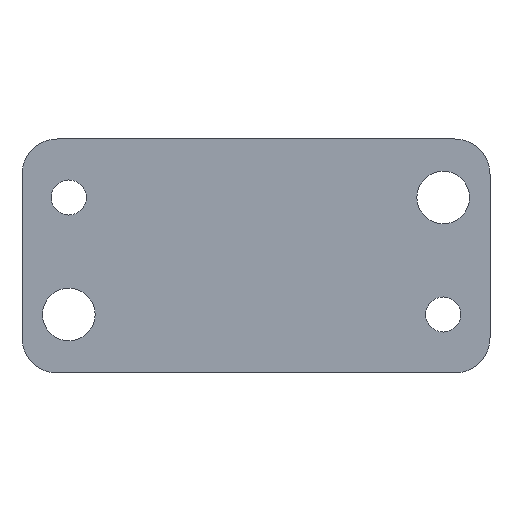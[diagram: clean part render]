
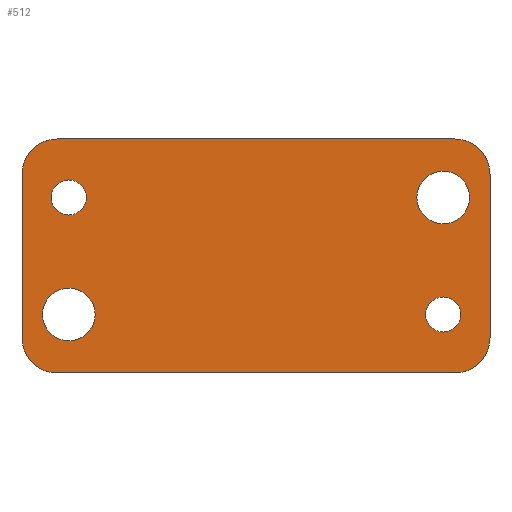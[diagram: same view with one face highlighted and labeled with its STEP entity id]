
A CAD part, front view. The second image highlights one B-rep face of the part: STEP entity #512.
In plain terms, the highlighted planar face has unit normal (0, -1, 0).
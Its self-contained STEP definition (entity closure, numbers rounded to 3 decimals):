
#23=FACE_BOUND('',#111,.T.);
#24=FACE_BOUND('',#112,.T.);
#25=FACE_BOUND('',#113,.T.);
#26=FACE_BOUND('',#114,.T.);
#38=PLANE('',#587);
#76=FACE_OUTER_BOUND('',#110,.T.);
#110=EDGE_LOOP('',(#473,#474,#475,#476,#477,#478,#479,#480));
#111=EDGE_LOOP('',(#481));
#112=EDGE_LOOP('',(#482));
#113=EDGE_LOOP('',(#483));
#114=EDGE_LOOP('',(#484));
#123=LINE('',#765,#167);
#126=LINE('',#777,#170);
#136=LINE('',#804,#180);
#141=LINE('',#825,#185);
#167=VECTOR('',#612,10.);
#170=VECTOR('',#623,10.);
#180=VECTOR('',#647,10.);
#185=VECTOR('',#672,10.);
#211=CIRCLE('',#551,3.);
#216=CIRCLE('',#559,3.);
#217=CIRCLE('',#561,3.);
#222=CIRCLE('',#569,3.);
#223=CIRCLE('',#571,2.25);
#224=CIRCLE('',#573,2.25);
#225=CIRCLE('',#575,1.5);
#226=CIRCLE('',#577,1.5);
#233=VERTEX_POINT('',#751);
#239=VERTEX_POINT('',#763);
#242=VERTEX_POINT('',#773);
#244=VERTEX_POINT('',#776);
#251=VERTEX_POINT('',#794);
#254=VERTEX_POINT('',#802);
#257=VERTEX_POINT('',#815);
#260=VERTEX_POINT('',#823);
#263=VERTEX_POINT('',#836);
#264=VERTEX_POINT('',#840);
#265=VERTEX_POINT('',#844);
#266=VERTEX_POINT('',#848);
#287=EDGE_CURVE('',#239,#233,#123,.T.);
#292=EDGE_CURVE('',#242,#244,#126,.T.);
#301=EDGE_CURVE('',#251,#242,#211,.T.);
#306=EDGE_CURVE('',#251,#254,#136,.T.);
#311=EDGE_CURVE('',#233,#254,#216,.T.);
#312=EDGE_CURVE('',#257,#239,#217,.T.);
#317=EDGE_CURVE('',#257,#260,#141,.T.);
#322=EDGE_CURVE('',#244,#260,#222,.T.);
#324=EDGE_CURVE('',#263,#263,#223,.T.);
#326=EDGE_CURVE('',#264,#264,#224,.T.);
#328=EDGE_CURVE('',#265,#265,#225,.T.);
#330=EDGE_CURVE('',#266,#266,#226,.T.);
#473=ORIENTED_EDGE('',*,*,#301,.F.);
#474=ORIENTED_EDGE('',*,*,#306,.T.);
#475=ORIENTED_EDGE('',*,*,#311,.F.);
#476=ORIENTED_EDGE('',*,*,#287,.F.);
#477=ORIENTED_EDGE('',*,*,#312,.F.);
#478=ORIENTED_EDGE('',*,*,#317,.T.);
#479=ORIENTED_EDGE('',*,*,#322,.F.);
#480=ORIENTED_EDGE('',*,*,#292,.F.);
#481=ORIENTED_EDGE('',*,*,#324,.T.);
#482=ORIENTED_EDGE('',*,*,#326,.T.);
#483=ORIENTED_EDGE('',*,*,#328,.T.);
#484=ORIENTED_EDGE('',*,*,#330,.T.);
#512=ADVANCED_FACE('',(#76,#23,#24,#25,#26),#38,.T.);
#551=AXIS2_PLACEMENT_3D('',#795,#638,#639);
#559=AXIS2_PLACEMENT_3D('',#813,#659,#660);
#561=AXIS2_PLACEMENT_3D('',#816,#663,#664);
#569=AXIS2_PLACEMENT_3D('',#834,#684,#685);
#571=AXIS2_PLACEMENT_3D('',#838,#689,#690);
#573=AXIS2_PLACEMENT_3D('',#842,#694,#695);
#575=AXIS2_PLACEMENT_3D('',#846,#699,#700);
#577=AXIS2_PLACEMENT_3D('',#850,#704,#705);
#587=AXIS2_PLACEMENT_3D('',#880,#736,#737);
#612=DIRECTION('',(-1.,0.,0.));
#623=DIRECTION('',(1.,0.,0.));
#638=DIRECTION('center_axis',(0.,1.,0.));
#639=DIRECTION('ref_axis',(-0.707,0.,0.707));
#647=DIRECTION('',(0.,0.,-1.));
#659=DIRECTION('center_axis',(0.,1.,0.));
#660=DIRECTION('ref_axis',(-0.707,0.,-0.707));
#663=DIRECTION('center_axis',(0.,1.,0.));
#664=DIRECTION('ref_axis',(0.707,0.,-0.707));
#672=DIRECTION('',(0.,0.,1.));
#684=DIRECTION('center_axis',(0.,1.,0.));
#685=DIRECTION('ref_axis',(0.707,0.,0.707));
#689=DIRECTION('center_axis',(0.,1.,0.));
#690=DIRECTION('ref_axis',(1.,0.,0.));
#694=DIRECTION('center_axis',(0.,1.,0.));
#695=DIRECTION('ref_axis',(1.,0.,0.));
#699=DIRECTION('center_axis',(0.,1.,0.));
#700=DIRECTION('ref_axis',(1.,0.,0.));
#704=DIRECTION('center_axis',(0.,1.,0.));
#705=DIRECTION('ref_axis',(1.,0.,0.));
#736=DIRECTION('center_axis',(0.,-1.,0.));
#737=DIRECTION('ref_axis',(1.,0.,0.));
#751=CARTESIAN_POINT('',(-17.,0.,-10.));
#763=CARTESIAN_POINT('',(17.,0.,-10.));
#765=CARTESIAN_POINT('',(-20.,0.,-10.));
#773=CARTESIAN_POINT('',(-17.,0.,10.));
#776=CARTESIAN_POINT('',(17.,0.,10.));
#777=CARTESIAN_POINT('',(-20.,0.,10.));
#794=CARTESIAN_POINT('',(-20.,0.,7.));
#795=CARTESIAN_POINT('Origin',(-17.,0.,7.));
#802=CARTESIAN_POINT('',(-20.,0.,-7.));
#804=CARTESIAN_POINT('',(-20.,0.,0.));
#813=CARTESIAN_POINT('Origin',(-17.,0.,-7.));
#815=CARTESIAN_POINT('',(20.,0.,-7.));
#816=CARTESIAN_POINT('Origin',(17.,0.,-7.));
#823=CARTESIAN_POINT('',(20.,0.,7.));
#825=CARTESIAN_POINT('',(20.,0.,0.));
#834=CARTESIAN_POINT('Origin',(17.,0.,7.));
#836=CARTESIAN_POINT('',(-18.25,0.,-5.));
#838=CARTESIAN_POINT('Origin',(-16.,0.,-5.));
#840=CARTESIAN_POINT('',(13.75,0.,5.));
#842=CARTESIAN_POINT('Origin',(16.,0.,5.));
#844=CARTESIAN_POINT('',(14.5,0.,-5.));
#846=CARTESIAN_POINT('Origin',(16.,0.,-5.));
#848=CARTESIAN_POINT('',(-17.5,0.,5.));
#850=CARTESIAN_POINT('Origin',(-16.,0.,5.));
#880=CARTESIAN_POINT('Origin',(-20.,0.,0.));
